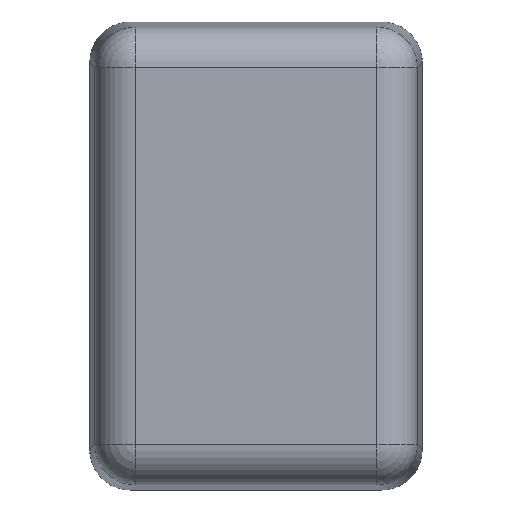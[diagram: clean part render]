
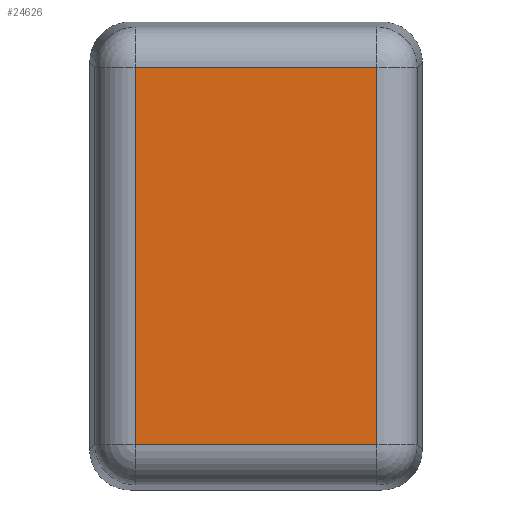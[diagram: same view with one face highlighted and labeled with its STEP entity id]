
A CAD part, front view. The second image highlights one B-rep face of the part: STEP entity #24626.
In plain terms, the highlighted planar face has unit normal (0, -1, 0).
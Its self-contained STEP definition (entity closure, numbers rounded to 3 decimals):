
#1619 = ORIENTED_EDGE ( 'NONE', *, *, #21847, .T. ) ;
#4932 = ORIENTED_EDGE ( 'NONE', *, *, #10805, .T. ) ;
#5652 = EDGE_CURVE ( 'NONE', #5842, #17861, #19251, .T. ) ;
#5842 = VERTEX_POINT ( 'NONE', #6759 ) ;
#5988 = EDGE_CURVE ( 'NONE', #17861, #19550, #23074, .T. ) ;
#6281 = ORIENTED_EDGE ( 'NONE', *, *, #5988, .T. ) ;
#6636 = DIRECTION ( 'NONE',  ( 0., 1., 0. ) ) ;
#6759 = CARTESIAN_POINT ( 'NONE',  ( -7.484, -11.5, -11.684 ) ) ;
#7151 = CARTESIAN_POINT ( 'NONE',  ( 7.484, -11.5, 14.098 ) ) ;
#9207 = CARTESIAN_POINT ( 'NONE',  ( 9.898, -11.5, -11.684 ) ) ;
#9629 = DIRECTION ( 'NONE',  ( 0., 0., 1. ) ) ;
#10521 = DIRECTION ( 'NONE',  ( -1., 0., 0. ) ) ;
#10805 = EDGE_CURVE ( 'NONE', #19550, #26659, #34432, .T. ) ;
#11646 = DIRECTION ( 'NONE',  ( 0., 0., -1. ) ) ;
#11855 = CARTESIAN_POINT ( 'NONE',  ( 7.484, -11.5, -11.684 ) ) ;
#15536 = PLANE ( 'NONE',  #39552 ) ;
#17861 = VERTEX_POINT ( 'NONE', #11855 ) ;
#18341 = DIRECTION ( 'NONE',  ( 1., 0., 0. ) ) ;
#18416 = CARTESIAN_POINT ( 'NONE',  ( -7.484, -11.5, 11.684 ) ) ;
#19251 = LINE ( 'NONE', #9207, #33662 ) ;
#19550 = VERTEX_POINT ( 'NONE', #34188 ) ;
#20539 = EDGE_LOOP ( 'NONE', ( #1619, #22617, #6281, #4932 ) ) ;
#21152 = VECTOR ( 'NONE', #35082, 1000. ) ;
#21164 = CARTESIAN_POINT ( 'NONE',  ( -7.484, -11.5, -14.098 ) ) ;
#21460 = VECTOR ( 'NONE', #10521, 1000. ) ;
#21721 = LINE ( 'NONE', #21164, #28897 ) ;
#21847 = EDGE_CURVE ( 'NONE', #26659, #5842, #21721, .T. ) ;
#21965 = CARTESIAN_POINT ( 'NONE',  ( 0., -11.5, 0. ) ) ;
#22617 = ORIENTED_EDGE ( 'NONE', *, *, #5652, .T. ) ;
#23074 = LINE ( 'NONE', #7151, #21152 ) ;
#24626 = ADVANCED_FACE ( 'NONE', ( #29628 ), #15536, .F. ) ;
#26659 = VERTEX_POINT ( 'NONE', #18416 ) ;
#28897 = VECTOR ( 'NONE', #11646, 1000. ) ;
#29628 = FACE_OUTER_BOUND ( 'NONE', #20539, .T. ) ;
#31691 = CARTESIAN_POINT ( 'NONE',  ( -9.898, -11.5, 11.684 ) ) ;
#33662 = VECTOR ( 'NONE', #18341, 1000. ) ;
#34188 = CARTESIAN_POINT ( 'NONE',  ( 7.484, -11.5, 11.684 ) ) ;
#34432 = LINE ( 'NONE', #31691, #21460 ) ;
#35082 = DIRECTION ( 'NONE',  ( 0., 0., 1. ) ) ;
#39552 = AXIS2_PLACEMENT_3D ( 'NONE', #21965, #6636, #9629 ) ;
